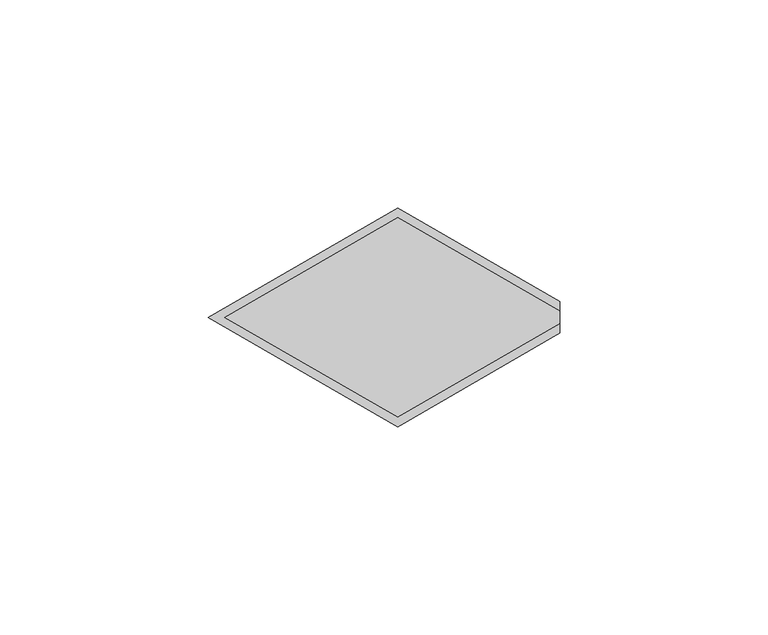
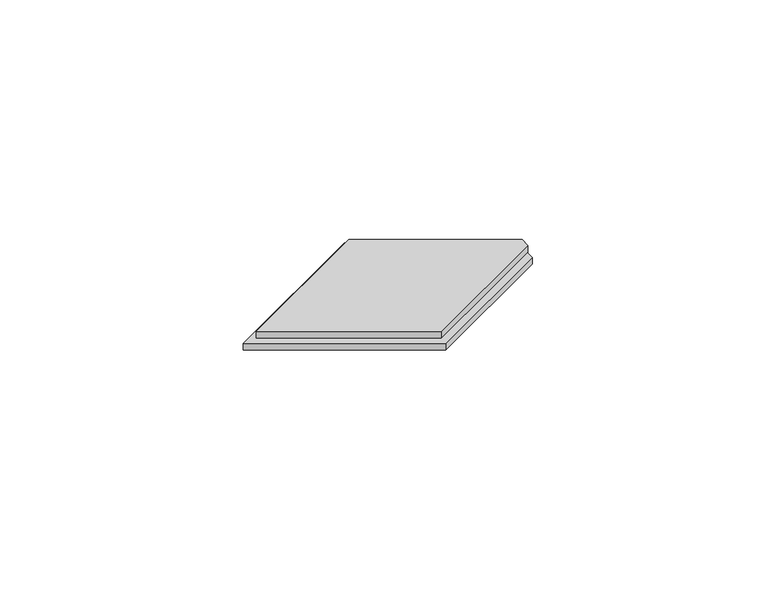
"""IFC4 building model written with IfcOpenShell, lengths in millimetres: proxy geometry, PBSHOP - CUBICA ARGENTO 4,8X8,3 : CUBICA ARGENTO - POSIÇÃO 03."""

from ifc_helpers import new_model, si_unit, frame, origin, origin_with_axes, place, context, project, spatial, polyline, outline, extrude, source, transform, mapped, element, save


def generic_models_7dea52c4(model_context):
    return source(origin(), model_context, "Body", "SweptSolid", [
        extrude(outline(polyline([(0.0, -26.3094011), (-45.5692194, 0.0), (0.0, 26.3094011), (38.9692194, 3.8105118), (38.9692194, -3.8105118), (0.0, -26.3094011)])), origin_with_axes(), (0.0, 0.0, 1.0), 2.0),
        extrude(outline(polyline([(0.0, -24.0), (-41.5692194, 0.0), (0.0, 24.0), (38.9692194, 1.5011107), (38.9692194, -1.5011107), (0.0, -24.0)])), frame((0.0, 0.0, 2.0), z_axis=(0.0, 0.0, 1.0), x_axis=(1.0, 0.0, 0.0)), (0.0, 0.0, 1.0), 2.5),
    ])


if __name__ == "__main__":
    model = new_model("IFC4")
    model_context = context("Model", 3, world=origin())
    ifc_project = project(units=[si_unit("LENGTHUNIT", "METRE", prefix="MILLI")], contexts=[model_context])
    site = spatial("IfcSite", under=ifc_project)
    building = spatial("IfcBuilding", under=site)
    placement = place(None, origin())
    generic_models_shape = generic_models_7dea52c4(model_context)
    element("IfcBuildingElementProxy", 1, Name="PBSHOP - CUBICA ARGENTO 4,8X8,3 : CUBICA ARGENTO - POSIÇÃO 03", ObjectType="PBSHOP - CUBICA ARGENTO 4,8X8,3 : CUBICA ARGENTO - POSIÇÃO 03", at=placement, inside=building, context=model_context, shape_type="MappedRepresentation", body=[
        mapped(generic_models_shape, transform((0.0, 0.0, 0.0), x_axis=(1.0, 0.0, 0.0), y_axis=(0.0, 1.0, 0.0), z_axis=(0.0, 0.0, 1.0))),
    ])
    save(model, "model.ifc")
